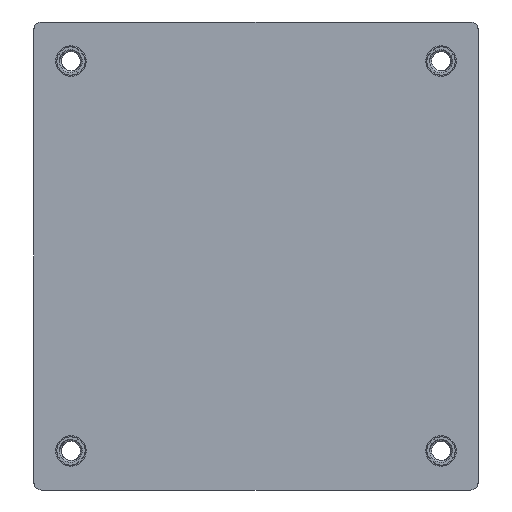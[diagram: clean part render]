
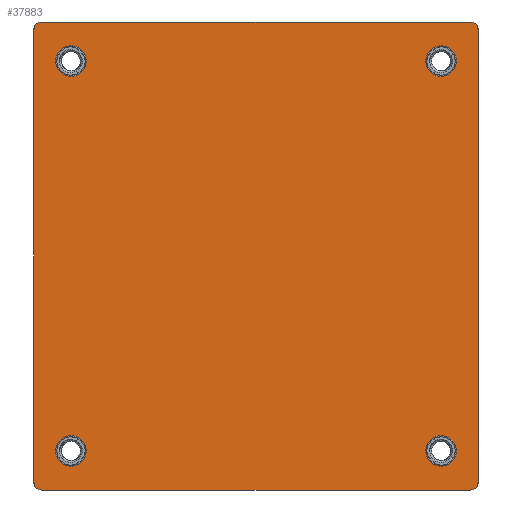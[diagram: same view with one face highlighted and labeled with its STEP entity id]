
A CAD part, front view. The second image highlights one B-rep face of the part: STEP entity #37883.
In plain terms, the highlighted planar face has unit normal (0, -1, 0).
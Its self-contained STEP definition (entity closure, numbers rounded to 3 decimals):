
#168 = DIRECTION ( 'NONE',  ( 0., 0., 1. ) ) ;
#328 = ORIENTED_EDGE ( 'NONE', *, *, #37495, .T. ) ;
#577 = VERTEX_POINT ( 'NONE', #6510 ) ;
#656 = CARTESIAN_POINT ( 'NONE',  ( -24.13, -1.5, -27.4 ) ) ;
#738 = ORIENTED_EDGE ( 'NONE', *, *, #27148, .T. ) ;
#790 = AXIS2_PLACEMENT_3D ( 'NONE', #26093, #16862, #28629 ) ;
#1136 = VERTEX_POINT ( 'NONE', #20894 ) ;
#1210 = DIRECTION ( 'NONE',  ( 0., 1., 0. ) ) ;
#1275 = EDGE_LOOP ( 'NONE', ( #15754, #19312 ) ) ;
#2309 = AXIS2_PLACEMENT_3D ( 'NONE', #31116, #34203, #22209 ) ;
#3399 = CARTESIAN_POINT ( 'NONE',  ( 24.13, -1.5, 23.4 ) ) ;
#3414 = DIRECTION ( 'NONE',  ( -1., 0., 0. ) ) ;
#3597 = CARTESIAN_POINT ( 'NONE',  ( -28.95, -1.5, -30.5 ) ) ;
#4346 = CIRCLE ( 'NONE', #35748, 1. ) ;
#4371 = ORIENTED_EDGE ( 'NONE', *, *, #23008, .T. ) ;
#4856 = CARTESIAN_POINT ( 'NONE',  ( 28.95, -1.5, -30.5 ) ) ;
#5051 = CARTESIAN_POINT ( 'NONE',  ( -27.95, -1.5, -29.5 ) ) ;
#5552 = VERTEX_POINT ( 'NONE', #3399 ) ;
#6247 = EDGE_LOOP ( 'NONE', ( #328, #738 ) ) ;
#6248 = CIRCLE ( 'NONE', #29621, 1. ) ;
#6349 = AXIS2_PLACEMENT_3D ( 'NONE', #34885, #8469, #29072 ) ;
#6474 = LINE ( 'NONE', #12414, #25250 ) ;
#6510 = CARTESIAN_POINT ( 'NONE',  ( -28.95, -1.5, -29.5 ) ) ;
#6539 = ORIENTED_EDGE ( 'NONE', *, *, #6809, .T. ) ;
#6673 = LINE ( 'NONE', #3597, #12706 ) ;
#6809 = EDGE_CURVE ( 'NONE', #19126, #17512, #26204, .T. ) ;
#7094 = CARTESIAN_POINT ( 'NONE',  ( 28.95, -1.5, 29.5 ) ) ;
#7169 = EDGE_CURVE ( 'NONE', #17475, #22753, #6673, .T. ) ;
#8455 = ORIENTED_EDGE ( 'NONE', *, *, #22377, .T. ) ;
#8469 = DIRECTION ( 'NONE',  ( 0., 1., 0. ) ) ;
#8721 = VERTEX_POINT ( 'NONE', #10678 ) ;
#8796 = CARTESIAN_POINT ( 'NONE',  ( -24.13, -1.5, 23.4 ) ) ;
#8808 = EDGE_CURVE ( 'NONE', #33030, #1136, #22598, .T. ) ;
#9133 = CIRCLE ( 'NONE', #14663, 2. ) ;
#9454 = DIRECTION ( 'NONE',  ( 0., 0., 1. ) ) ;
#10540 = ORIENTED_EDGE ( 'NONE', *, *, #8808, .T. ) ;
#10678 = CARTESIAN_POINT ( 'NONE',  ( 24.13, -1.5, 27.4 ) ) ;
#10876 = DIRECTION ( 'NONE',  ( 0., 0., 1. ) ) ;
#11159 = FACE_BOUND ( 'NONE', #23998, .T. ) ;
#11342 = EDGE_CURVE ( 'NONE', #577, #12641, #6474, .T. ) ;
#11373 = VERTEX_POINT ( 'NONE', #30684 ) ;
#11989 = CARTESIAN_POINT ( 'NONE',  ( -24.13, -1.5, 25.4 ) ) ;
#12023 = CIRCLE ( 'NONE', #21233, 2. ) ;
#12188 = EDGE_CURVE ( 'NONE', #33406, #12641, #6248, .T. ) ;
#12414 = CARTESIAN_POINT ( 'NONE',  ( -28.95, -1.5, -30.5 ) ) ;
#12641 = VERTEX_POINT ( 'NONE', #37265 ) ;
#12706 = VECTOR ( 'NONE', #3414, 1000. ) ;
#12819 = LINE ( 'NONE', #13202, #27883 ) ;
#13194 = CIRCLE ( 'NONE', #34780, 2. ) ;
#13202 = CARTESIAN_POINT ( 'NONE',  ( -28.95, -1.5, 30.5 ) ) ;
#13752 = CARTESIAN_POINT ( 'NONE',  ( 24.13, -1.5, 25.4 ) ) ;
#14663 = AXIS2_PLACEMENT_3D ( 'NONE', #13752, #16463, #25501 ) ;
#15170 = ORIENTED_EDGE ( 'NONE', *, *, #17236, .F. ) ;
#15754 = ORIENTED_EDGE ( 'NONE', *, *, #32842, .T. ) ;
#15888 = DIRECTION ( 'NONE',  ( 0., 0., 1. ) ) ;
#16415 = CARTESIAN_POINT ( 'NONE',  ( -24.13, -1.5, -25.4 ) ) ;
#16463 = DIRECTION ( 'NONE',  ( 0., 1., 0. ) ) ;
#16797 = VERTEX_POINT ( 'NONE', #27332 ) ;
#16862 = DIRECTION ( 'NONE',  ( 0., 1., 0. ) ) ;
#16865 = CARTESIAN_POINT ( 'NONE',  ( -24.13, -1.5, -23.4 ) ) ;
#17236 = EDGE_CURVE ( 'NONE', #33406, #16797, #12819, .T. ) ;
#17374 = CIRCLE ( 'NONE', #790, 2. ) ;
#17463 = CIRCLE ( 'NONE', #24226, 1. ) ;
#17475 = VERTEX_POINT ( 'NONE', #19736 ) ;
#17512 = VERTEX_POINT ( 'NONE', #16865 ) ;
#18111 = VECTOR ( 'NONE', #33577, 1000. ) ;
#18145 = VERTEX_POINT ( 'NONE', #31281 ) ;
#18208 = DIRECTION ( 'NONE',  ( 0., 0., 1. ) ) ;
#18268 = CARTESIAN_POINT ( 'NONE',  ( -24.13, -1.5, 25.4 ) ) ;
#18488 = DIRECTION ( 'NONE',  ( 0., -1., 0. ) ) ;
#18682 = CARTESIAN_POINT ( 'NONE',  ( 27.95, -1.5, 29.5 ) ) ;
#18735 = CARTESIAN_POINT ( 'NONE',  ( -27.95, -1.5, 30.5 ) ) ;
#19126 = VERTEX_POINT ( 'NONE', #656 ) ;
#19312 = ORIENTED_EDGE ( 'NONE', *, *, #20279, .T. ) ;
#19353 = ORIENTED_EDGE ( 'NONE', *, *, #20592, .T. ) ;
#19484 = DIRECTION ( 'NONE',  ( 0., 0., 1. ) ) ;
#19736 = CARTESIAN_POINT ( 'NONE',  ( 27.95, -1.5, -30.5 ) ) ;
#20016 = FACE_BOUND ( 'NONE', #33656, .T. ) ;
#20279 = EDGE_CURVE ( 'NONE', #36054, #11373, #35938, .T. ) ;
#20592 = EDGE_CURVE ( 'NONE', #17475, #18145, #17463, .T. ) ;
#20894 = CARTESIAN_POINT ( 'NONE',  ( 24.13, -1.5, -23.4 ) ) ;
#21133 = DIRECTION ( 'NONE',  ( 0., 0., 1. ) ) ;
#21233 = AXIS2_PLACEMENT_3D ( 'NONE', #16415, #1210, #19484 ) ;
#21410 = DIRECTION ( 'NONE',  ( 0., 0., 1. ) ) ;
#21498 = CARTESIAN_POINT ( 'NONE',  ( 27.95, -1.5, -29.5 ) ) ;
#21707 = EDGE_CURVE ( 'NONE', #33000, #18145, #24676, .T. ) ;
#21931 = DIRECTION ( 'NONE',  ( 0., 0., 1. ) ) ;
#22116 = CARTESIAN_POINT ( 'NONE',  ( -24.13, -1.5, -25.4 ) ) ;
#22209 = DIRECTION ( 'NONE',  ( 0., 0., 1. ) ) ;
#22212 = CARTESIAN_POINT ( 'NONE',  ( -27.95, -1.5, 29.5 ) ) ;
#22373 = DIRECTION ( 'NONE',  ( 0., 0., 1. ) ) ;
#22377 = EDGE_CURVE ( 'NONE', #1136, #33030, #13194, .T. ) ;
#22598 = CIRCLE ( 'NONE', #2309, 2. ) ;
#22617 = EDGE_LOOP ( 'NONE', ( #32896, #32343, #32722, #19353, #24943, #25137, #15170, #24851 ) ) ;
#22753 = VERTEX_POINT ( 'NONE', #33199 ) ;
#22891 = FACE_OUTER_BOUND ( 'NONE', #22617, .T. ) ;
#23008 = EDGE_CURVE ( 'NONE', #17512, #19126, #12023, .T. ) ;
#23090 = PLANE ( 'NONE',  #6349 ) ;
#23998 = EDGE_LOOP ( 'NONE', ( #8455, #10540 ) ) ;
#24226 = AXIS2_PLACEMENT_3D ( 'NONE', #21498, #36378, #21133 ) ;
#24356 = CARTESIAN_POINT ( 'NONE',  ( 24.13, -1.5, -25.4 ) ) ;
#24386 = DIRECTION ( 'NONE',  ( 1., 0., 0. ) ) ;
#24590 = CARTESIAN_POINT ( 'NONE',  ( 24.13, -1.5, -27.4 ) ) ;
#24676 = LINE ( 'NONE', #4856, #18111 ) ;
#24851 = ORIENTED_EDGE ( 'NONE', *, *, #12188, .T. ) ;
#24943 = ORIENTED_EDGE ( 'NONE', *, *, #21707, .F. ) ;
#25137 = ORIENTED_EDGE ( 'NONE', *, *, #27726, .T. ) ;
#25249 = CIRCLE ( 'NONE', #33891, 1. ) ;
#25250 = VECTOR ( 'NONE', #18208, 1000. ) ;
#25501 = DIRECTION ( 'NONE',  ( 0., 0., 1. ) ) ;
#25773 = DIRECTION ( 'NONE',  ( 0., 1., 0. ) ) ;
#25784 = FACE_BOUND ( 'NONE', #1275, .T. ) ;
#26093 = CARTESIAN_POINT ( 'NONE',  ( 24.13, -1.5, 25.4 ) ) ;
#26204 = CIRCLE ( 'NONE', #37956, 2. ) ;
#27114 = DIRECTION ( 'NONE',  ( 0., 1., 0. ) ) ;
#27148 = EDGE_CURVE ( 'NONE', #5552, #8721, #9133, .T. ) ;
#27332 = CARTESIAN_POINT ( 'NONE',  ( 27.95, -1.5, 30.5 ) ) ;
#27587 = EDGE_CURVE ( 'NONE', #577, #22753, #25249, .T. ) ;
#27726 = EDGE_CURVE ( 'NONE', #33000, #16797, #4346, .T. ) ;
#27883 = VECTOR ( 'NONE', #24386, 1000. ) ;
#28629 = DIRECTION ( 'NONE',  ( 0., 0., 1. ) ) ;
#29072 = DIRECTION ( 'NONE',  ( 1., 0., 0. ) ) ;
#29621 = AXIS2_PLACEMENT_3D ( 'NONE', #22212, #30926, #10876 ) ;
#30684 = CARTESIAN_POINT ( 'NONE',  ( -24.13, -1.5, 27.4 ) ) ;
#30926 = DIRECTION ( 'NONE',  ( 0., -1., 0. ) ) ;
#31116 = CARTESIAN_POINT ( 'NONE',  ( 24.13, -1.5, -25.4 ) ) ;
#31281 = CARTESIAN_POINT ( 'NONE',  ( 28.95, -1.5, -29.5 ) ) ;
#32343 = ORIENTED_EDGE ( 'NONE', *, *, #27587, .T. ) ;
#32722 = ORIENTED_EDGE ( 'NONE', *, *, #7169, .F. ) ;
#32812 = DIRECTION ( 'NONE',  ( 0., 1., 0. ) ) ;
#32842 = EDGE_CURVE ( 'NONE', #11373, #36054, #33422, .T. ) ;
#32896 = ORIENTED_EDGE ( 'NONE', *, *, #11342, .F. ) ;
#33000 = VERTEX_POINT ( 'NONE', #7094 ) ;
#33030 = VERTEX_POINT ( 'NONE', #24590 ) ;
#33199 = CARTESIAN_POINT ( 'NONE',  ( -27.95, -1.5, -30.5 ) ) ;
#33406 = VERTEX_POINT ( 'NONE', #18735 ) ;
#33422 = CIRCLE ( 'NONE', #35900, 2. ) ;
#33430 = DIRECTION ( 'NONE',  ( 0., 1., 0. ) ) ;
#33577 = DIRECTION ( 'NONE',  ( 0., 0., -1. ) ) ;
#33656 = EDGE_LOOP ( 'NONE', ( #4371, #6539 ) ) ;
#33891 = AXIS2_PLACEMENT_3D ( 'NONE', #5051, #37266, #22373 ) ;
#34203 = DIRECTION ( 'NONE',  ( 0., 1., 0. ) ) ;
#34780 = AXIS2_PLACEMENT_3D ( 'NONE', #24356, #33430, #15888 ) ;
#34885 = CARTESIAN_POINT ( 'NONE',  ( -28.95, -1.5, 30.5 ) ) ;
#35324 = AXIS2_PLACEMENT_3D ( 'NONE', #11989, #32812, #21410 ) ;
#35748 = AXIS2_PLACEMENT_3D ( 'NONE', #18682, #18488, #9454 ) ;
#35900 = AXIS2_PLACEMENT_3D ( 'NONE', #18268, #27114, #168 ) ;
#35938 = CIRCLE ( 'NONE', #35324, 2. ) ;
#36054 = VERTEX_POINT ( 'NONE', #8796 ) ;
#36378 = DIRECTION ( 'NONE',  ( 0., -1., 0. ) ) ;
#37265 = CARTESIAN_POINT ( 'NONE',  ( -28.95, -1.5, 29.5 ) ) ;
#37266 = DIRECTION ( 'NONE',  ( 0., -1., 0. ) ) ;
#37495 = EDGE_CURVE ( 'NONE', #8721, #5552, #17374, .T. ) ;
#37601 = FACE_BOUND ( 'NONE', #6247, .T. ) ;
#37883 = ADVANCED_FACE ( 'NONE', ( #25784, #37601, #20016, #11159, #22891 ), #23090, .F. ) ;
#37956 = AXIS2_PLACEMENT_3D ( 'NONE', #22116, #25773, #21931 ) ;
